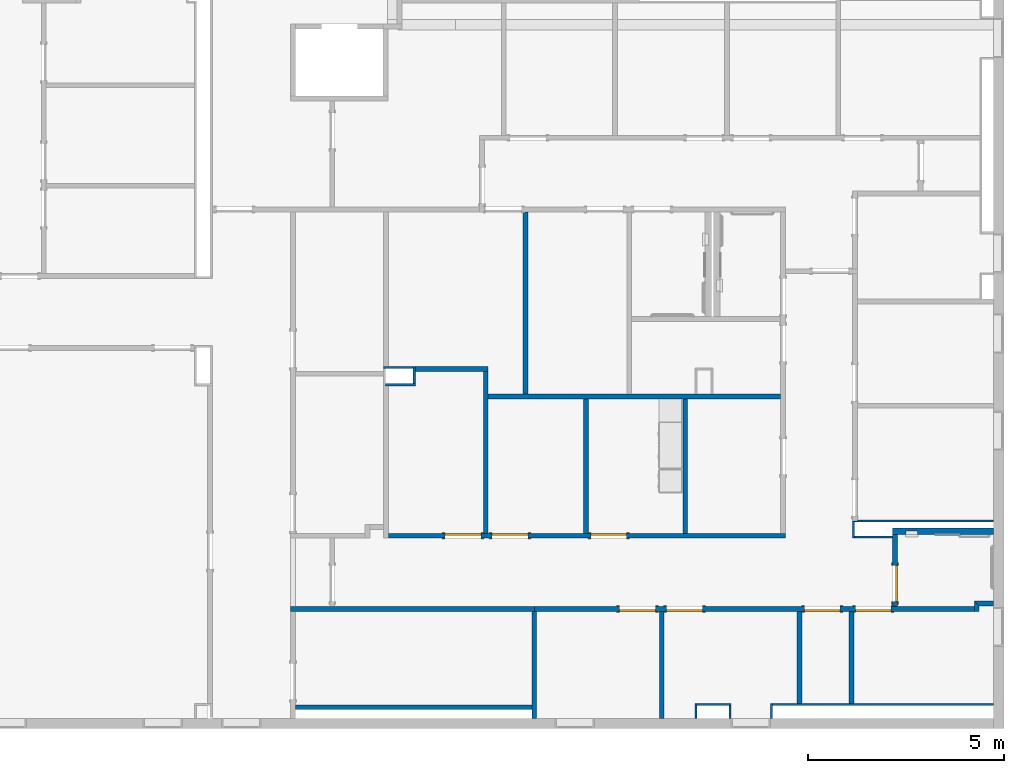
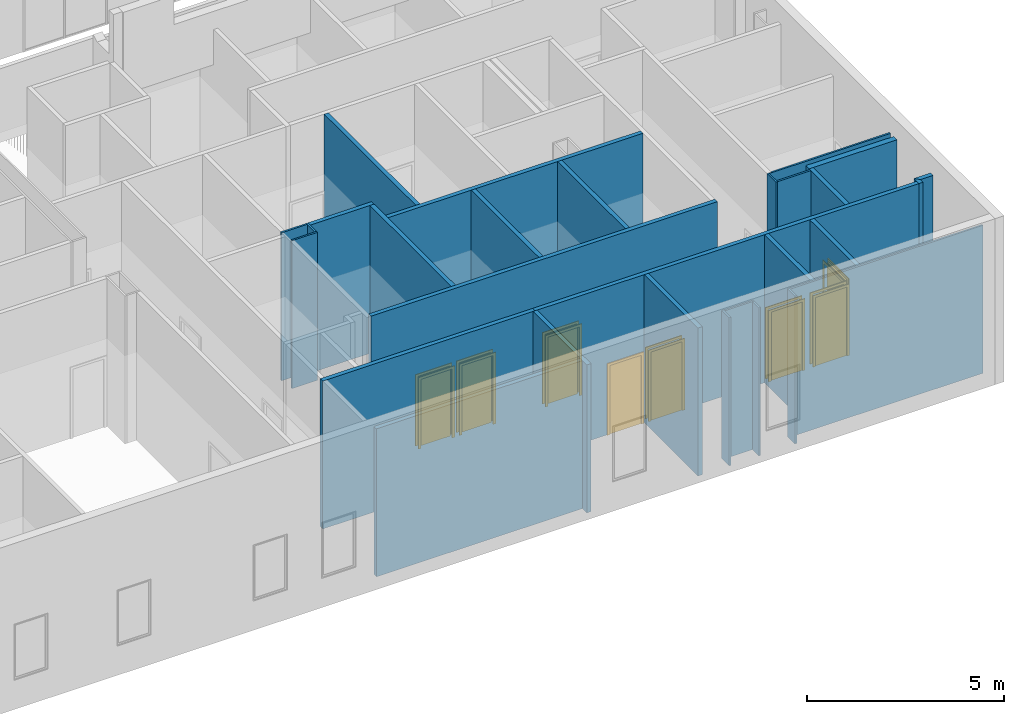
# One storey, part 15 of 47: 29 walls, 8 doors, 9 openings.
"""IFC2X3 building model written with IfcOpenShell, lengths in metres."""

from ifc_helpers import new_model, entity, si_unit, converted_unit, frame, frame_2d, origin, origin_2d_with_axis, place, context, project, spatial, polyline, rectangle, outline, extrude, source, transform, mapped, material, layer, layer_set, layer_usage, type_object, type_shapes, element, fill, save


model = new_model("IFC2X3")

# Units and contexts
model_context = context("Model", 3, precision=1e-09, world=origin())
plan_context = context("Plan", 3, precision=1e-09, world=origin())
ifc_project = project(units=[si_unit("LENGTHUNIT", "METRE"), si_unit("AREAUNIT", "SQUARE_METRE"), si_unit("VOLUMEUNIT", "CUBIC_METRE"), converted_unit("PLANEANGLEUNIT", "DEGREE", entity("IfcRatioMeasure", 0.01745329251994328), si_unit("PLANEANGLEUNIT", "RADIAN"), dimensions=[0, 0, 0, 0, 0, 0, 0]), si_unit("TIMEUNIT", "SECOND")], contexts=[model_context, plan_context])

# Site, building, storey
site_placement = place(None, origin())
site = spatial("IfcSite", under=ifc_project, at=site_placement, Name="Default", CompositionType="ELEMENT")
building_placement = place(site_placement, origin())
building = spatial("IfcBuilding", under=site, at=building_placement, CompositionType="ELEMENT")
storey_placement = place(building_placement, frame((0.0, 0.0, 4.570000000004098)))
storey = spatial("IfcBuildingStorey", under=building, at=storey_placement, Name="Second Floor", CompositionType="ELEMENT", Elevation=4.570000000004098)

# Wall
ifc_material_1 = material(Name="Metal - Stud Layer")
ifc_layer_1 = layer(ifc_material_1, 0.038)
ifc_material_2 = material(Name="Plasterboard")
ifc_layer_2 = layer(ifc_material_2, 0.016)
ifc_layer_set_1 = layer_set([ifc_layer_1, ifc_layer_2], Name="Basic Wall:Interior - Furring (38 mm Stud)")
ifc_layer_usage_1 = layer_usage(ifc_layer_set_1, "AXIS2", "NEGATIVE", 0.027)
wall_1_placement = place(storey_placement, frame((0.1129999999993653, 14.96743871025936, 0.0), z_axis=(0.0, 0.0, 1.0), x_axis=(-1.0, 0.0, 0.0)))
element("IfcWallStandardCase", 1, at=wall_1_placement, inside=storey, material=ifc_layer_usage_1, Name="Basic Wall:Interior - Furring (38 mm Stud)", ObjectType="Basic Wall:Interior - Furring (38 mm Stud)", context=model_context, shape_type="SweptSolid", body=[
    extrude(outline(polyline([(3.478999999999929, -0.02700000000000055), (3.47899999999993, 0.0), (3.548999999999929, 0.0), (3.548999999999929, 0.02700000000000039), (0.0, 0.02700000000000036), (0.0, -0.02700000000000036), (3.478999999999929, -0.02700000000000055)])), origin(), (0.0, 0.0, 1.0), 4.577999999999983),
])

# Wall, opening
ifc_layer_3 = layer(ifc_material_1, 0.152)
ifc_layer_4 = layer(ifc_material_2, 0.016)
ifc_layer_set_2 = layer_set([ifc_layer_3, ifc_layer_4], Name="Basic Wall:Interior - Furring (152 mm Stud)")
ifc_layer_usage_2 = layer_usage(ifc_layer_set_2, "AXIS2", "POSITIVE", -0.08399999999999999)
wall_2_placement = place(storey_placement, frame((0.112999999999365, 14.69843871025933, 0.0), z_axis=(0.0, 0.0, 1.0), x_axis=(-1.0, 0.0, 0.0)))
wall_2 = element("IfcWallStandardCase", 2, at=wall_2_placement, inside=storey, material=ifc_layer_usage_2, Name="Basic Wall:Interior - Furring (152 mm Stud)", ObjectType="Basic Wall:Interior - Furring (152 mm Stud)", context=model_context, shape_type="SweptSolid", body=[
    extrude(rectangle(XDim=2.576999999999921, YDim=0.1680000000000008, at=frame_2d((1.28849999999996, 0.0), x_axis=(-1.0, 0.0))), origin(), (0.0, 0.0, 1.0), 4.577999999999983),
])
opening_1_placement = place(wall_2_placement, origin())
element("IfcOpeningElement", 3, at=opening_1_placement, cuts=wall_2, ObjectType="Opening", context=model_context, shape_type="SweptSolid", body=[
    extrude(rectangle(XDim=1.362075, YDim=0.2984500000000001, at=frame_2d((0.0, 0.0), x_axis=(0.0, 1.0))), frame((2.087899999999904, -0.004900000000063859, 1.041399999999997), z_axis=(0.0, 1.0, 0.0), x_axis=(1.0, 0.0, 0.0)), (0.0, 0.0, 1.0), 0.1524000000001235),
])

# Wall, opening, door
ifc_layer_5 = layer(ifc_material_2, 0.016)
ifc_layer_6 = layer(ifc_material_1, 0.092)
ifc_layer_7 = layer(ifc_material_2, 0.016)
ifc_layer_set_3 = layer_set([ifc_layer_5, ifc_layer_6, ifc_layer_7], Name="Basic Wall:Interior - Partition (92mm Stud)")
ifc_layer_usage_3 = layer_usage(ifc_layer_set_3, "AXIS2", "NEGATIVE", 0.062)
wall_3_placement = place(storey_placement, frame((-2.402000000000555, 14.61443871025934, 0.0), z_axis=(0.0, 0.0, 1.0), x_axis=(0.0, -1.0, 0.0)))
wall_3 = element("IfcWallStandardCase", 4, at=wall_3_placement, inside=storey, material=ifc_layer_usage_3, Name="Basic Wall:Interior - Partition (92mm Stud)", ObjectType="Basic Wall:Interior - Partition (92mm Stud)", context=model_context, shape_type="SweptSolid", body=[
    extrude(rectangle(XDim=1.834438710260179, YDim=0.124, at=frame_2d((0.9172193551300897, 0.0), x_axis=(-1.0, 0.0))), origin(), (0.0, 0.0, 1.0), 4.577999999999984),
])
opening_2_placement = place(wall_3_placement, frame((0.7909999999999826, -0.06200000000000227, 0.0)))
opening_2 = element("IfcOpeningElement", 5, at=opening_2_placement, cuts=wall_3, Name="M_Single-Flush:0915 x 2134mm:0915 x 2134mm:1", ObjectType="Opening", context=model_context, shape_type="SweptSolid", body=[
    extrude(rectangle(XDim=0.9149999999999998, YDim=2.134, at=frame_2d((1.067, 0.4575), x_axis=(0.0, 1.0))), frame((0.0, 0.0, 0.0), z_axis=(0.0, 1.0, 0.0), x_axis=(0.0, 0.0, 1.0)), (0.0, 0.0, 1.0), 0.124),
])
door_style_1 = type_object("IfcDoorStyle", Name="0915 x 2134mm", ConstructionType="NOTDEFINED", OperationType="SINGLE_SWING_RIGHT", ParameterTakesPrecedence=False, Sizeable=False)
shared_shape_1 = source(origin(), model_context, "Body", "SweptSolid", [
    extrude(outline(polyline([(-0.5335, -1.123999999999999), (0.5334999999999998, -1.123999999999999), (0.5334999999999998, 1.086), (0.4574999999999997, 1.086), (0.4574999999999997, -1.048000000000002), (-0.4574999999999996, -1.048000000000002), (-0.4574999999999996, 1.086), (-0.5335, 1.086), (-0.5335, -1.123999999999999)])), frame((0.4575000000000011, 0.1239999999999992, 1.086), z_axis=(0.0, 1.0, 0.0), x_axis=(1.0, 0.0, 0.0)), (0.0, 0.0, 1.0), 0.02499999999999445),
    extrude(outline(polyline([(-1.123999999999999, -0.5334999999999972), (1.085999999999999, -0.5334999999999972), (1.085999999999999, -0.4575000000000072), (-1.048, -0.4575000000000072), (-1.048, 0.4575000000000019), (1.085999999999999, 0.4575000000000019), (1.085999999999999, 0.5335000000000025), (-1.123999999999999, 0.5335000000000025), (-1.123999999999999, -0.5334999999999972)])), frame((0.4575000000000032, -0.02500000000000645, 1.085999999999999), z_axis=(0.0, 1.0, 0.0), x_axis=(0.0, 0.0, -1.0)), (0.0, 0.0, 1.0), 0.02500000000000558),
    extrude(rectangle(XDim=0.051, YDim=0.9149999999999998, at=origin_2d_with_axis()), frame((0.4575000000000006, 0.09849999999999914, 0.0), z_axis=(0.0, 0.0, 1.0), x_axis=(0.0, 1.0, 0.0)), (0.0, 0.0, 1.0), 2.133999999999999),
])
type_shapes(door_style_1, [shared_shape_1])
door_1_placement = place(opening_2_placement, origin())
door_1 = element("IfcDoor", 6, at=door_1_placement, inside=storey, type_object=door_style_1, Name="M_Single-Flush:0915 x 2134mm:0915 x 2134mm", ObjectType="0915 x 2134mm", OverallHeight=2.134, OverallWidth=0.9149999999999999, context=model_context, shape_type="MappedRepresentation", body=[
    mapped(shared_shape_1, transform((0.0, 0.0, 0.0), scale=1.0)),
])
fill(opening_2, door_1)

# Walls
ifc_layer_usage_4 = layer_usage(ifc_layer_set_1, "AXIS2", "POSITIVE", -0.027)
wall_4_placement = place(storey_placement, frame((-2.464000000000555, 14.55143871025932, 0.0), z_axis=(0.0, 0.0, 1.0), x_axis=(-1.0, 0.0, 0.0)))
element("IfcWallStandardCase", 7, at=wall_4_placement, inside=storey, material=ifc_layer_usage_4, Name="Basic Wall:Interior - Furring (38 mm Stud)", ObjectType="Basic Wall:Interior - Furring (38 mm Stud)", context=model_context, shape_type="SweptSolid", body=[
    extrude(rectangle(XDim=0.9720000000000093, YDim=0.05400000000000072, at=frame_2d((0.4860000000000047, 0.0), x_axis=(-1.0, 0.0))), origin(), (0.0, 0.0, 1.0), 4.577999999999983),
])
ifc_layer_usage_5 = layer_usage(ifc_layer_set_3, "AXIS2", "NEGATIVE", 0.062)
wall_5_placement = place(storey_placement, frame((0.1129999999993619, 12.85643871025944, 0.0), z_axis=(0.0, 0.0, 1.0), x_axis=(-1.0, 0.0, 0.0)))
element("IfcWallStandardCase", 8, at=wall_5_placement, inside=storey, material=ifc_layer_usage_5, Name="Basic Wall:Interior - Partition (92mm Stud)", ObjectType="Basic Wall:Interior - Partition (92mm Stud)", context=model_context, shape_type="SweptSolid", body=[
    extrude(outline(polyline([(0.4919999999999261, -0.06199999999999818), (0.3679999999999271, 0.06200000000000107), (0.0, 0.06200000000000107), (0.0, -0.0619999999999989), (0.4919999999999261, -0.06199999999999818)])), origin(), (0.0, 0.0, 1.0), 4.577999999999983),
])
ifc_layer_usage_6 = layer_usage(ifc_layer_set_3, "AXIS2", "NEGATIVE", 0.062)
wall_6_placement = place(storey_placement, frame((-0.3170000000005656, 12.91843871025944, 0.0), z_axis=(0.0, 0.0, 1.0), x_axis=(0.0, -1.0, 0.0)))
element("IfcWallStandardCase", 9, at=wall_6_placement, inside=storey, material=ifc_layer_usage_6, Name="Basic Wall:Interior - Partition (92mm Stud)", ObjectType="Basic Wall:Interior - Partition (92mm Stud)", context=model_context, shape_type="SweptSolid", body=[
    extrude(outline(polyline([(0.2624387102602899, -0.06200000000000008), (0.2624387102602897, 0.06199999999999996), (0.1240000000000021, 0.06199999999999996), (0.0, -0.06200000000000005), (0.1384387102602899, -0.06200000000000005), (0.2624387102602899, -0.06200000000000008)])), origin(), (0.0, 0.0, 1.0), 4.577999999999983),
])

# Wall, openings, doors
ifc_layer_usage_7 = layer_usage(ifc_layer_set_3, "AXIS2", "NEGATIVE", 0.062)
wall_7_placement = place(storey_placement, frame((-0.3790000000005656, 12.71799999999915, 0.0), z_axis=(0.0, 0.0, 1.0), x_axis=(-1.0, 0.0, 0.0)))
wall_7 = element("IfcWallStandardCase", 10, at=wall_7_placement, inside=storey, material=ifc_layer_usage_7, Name="Basic Wall:Interior - Partition (92mm Stud)", ObjectType="Basic Wall:Interior - Partition (92mm Stud)", context=model_context, shape_type="SweptSolid", body=[
    extrude(rectangle(XDim=11.23299985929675, YDim=0.1240000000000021, at=frame_2d((5.616499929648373, 0.0), x_axis=(-1.0, 0.0))), origin(), (0.0, 0.0, 1.0), 4.577999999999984),
])
opening_3_placement = place(wall_7_placement, frame((2.120499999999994, -0.06200000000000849, 0.0)))
opening_3 = element("IfcOpeningElement", 11, at=opening_3_placement, cuts=wall_7, Name="M_Single-Flush:0915 x 2134mm:0915 x 2134mm:1", ObjectType="Opening", context=model_context, shape_type="SweptSolid", body=[
    extrude(rectangle(XDim=0.9149999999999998, YDim=2.134, at=frame_2d((1.067, 0.4574999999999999), x_axis=(0.0, 1.0))), frame((0.0, 0.0, 0.0), z_axis=(0.0, 1.0, 0.0), x_axis=(0.0, 0.0, 1.0)), (0.0, 0.0, 1.0), 0.124),
])
opening_4_placement = place(wall_7_placement, frame((3.421999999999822, -0.06200000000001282, 0.0)))
opening_4 = element("IfcOpeningElement", 12, at=opening_4_placement, cuts=wall_7, Name="M_Single-Flush:0915 x 2134mm:0915 x 2134mm:1", ObjectType="Opening", context=model_context, shape_type="SweptSolid", body=[
    extrude(rectangle(XDim=0.9149999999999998, YDim=2.134, at=frame_2d((1.067, 0.4575), x_axis=(0.0, 1.0))), frame((0.0, 0.0, 0.0), z_axis=(0.0, 1.0, 0.0), x_axis=(0.0, 0.0, 1.0)), (0.0, 0.0, 1.0), 0.124),
])
opening_5_placement = place(wall_7_placement, frame((8.14099999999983, -0.06200000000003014, 0.0)))
opening_5 = element("IfcOpeningElement", 13, at=opening_5_placement, cuts=wall_7, Name="M_Single-Flush:0915 x 2134mm:0915 x 2134mm:1", ObjectType="Opening", context=model_context, shape_type="SweptSolid", body=[
    extrude(rectangle(XDim=0.9150000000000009, YDim=2.134, at=frame_2d((1.067, 0.4574999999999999), x_axis=(0.0, -1.0))), frame((0.0, 0.0, 0.0), z_axis=(0.0, 1.0, 0.0), x_axis=(0.0, 0.0, 1.0)), (0.0, 0.0, 1.0), 0.124),
])
opening_6_placement = place(wall_7_placement, frame((6.941999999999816, -0.06200000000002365, 0.0)))
opening_6 = element("IfcOpeningElement", 14, at=opening_6_placement, cuts=wall_7, Name="M_Single-Flush:0915 x 2134mm:0915 x 2134mm:1", ObjectType="Opening", context=model_context, shape_type="SweptSolid", body=[
    extrude(rectangle(XDim=0.9149999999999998, YDim=2.134, at=frame_2d((1.067, 0.4575), x_axis=(0.0, 1.0))), frame((0.0, 0.0, 0.0), z_axis=(0.0, 1.0, 0.0), x_axis=(0.0, 0.0, 1.0)), (0.0, 0.0, 1.0), 0.124),
])
door_2_placement = place(opening_3_placement, origin())
door_2 = element("IfcDoor", 15, at=door_2_placement, inside=storey, type_object=door_style_1, Name="M_Single-Flush:0915 x 2134mm:0915 x 2134mm", ObjectType="0915 x 2134mm", OverallHeight=2.134, OverallWidth=0.9149999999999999, context=model_context, shape_type="MappedRepresentation", body=[
    mapped(shared_shape_1, transform((0.0, 0.0, 0.0), scale=1.0)),
])
fill(opening_3, door_2)
door_3_placement = place(opening_4_placement, origin())
door_3 = element("IfcDoor", 16, at=door_3_placement, inside=storey, type_object=door_style_1, Name="M_Single-Flush:0915 x 2134mm:0915 x 2134mm", ObjectType="0915 x 2134mm", OverallHeight=2.134, OverallWidth=0.9149999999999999, context=model_context, shape_type="MappedRepresentation", body=[
    mapped(shared_shape_1, transform((0.0, 0.0, 0.0), scale=1.0)),
])
fill(opening_4, door_3)
door_4_placement = place(opening_6_placement, origin())
door_4 = element("IfcDoor", 17, at=door_4_placement, inside=storey, type_object=door_style_1, Name="M_Single-Flush:0915 x 2134mm:0915 x 2134mm", ObjectType="0915 x 2134mm", OverallHeight=2.134, OverallWidth=0.9149999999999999, context=model_context, shape_type="MappedRepresentation", body=[
    mapped(shared_shape_1, transform((0.0, 0.0, 0.0), scale=1.0)),
])
fill(opening_6, door_4)
door_style_2 = type_object("IfcDoorStyle", Name="0915 x 2134mm", ConstructionType="NOTDEFINED", OperationType="SINGLE_SWING_LEFT", ParameterTakesPrecedence=False, Sizeable=False)
shared_shape_2 = source(origin(), model_context, "Body", "SweptSolid", [
    extrude(outline(polyline([(-0.5335, -1.123999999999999), (0.5334999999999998, -1.123999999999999), (0.5334999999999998, 1.086), (0.4574999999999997, 1.086), (0.4574999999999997, -1.048000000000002), (-0.4574999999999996, -1.048000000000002), (-0.4574999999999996, 1.086), (-0.5335, 1.086), (-0.5335, -1.123999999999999)])), frame((0.4575000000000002, 0.1489999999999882, 1.086), z_axis=(0.0, -1.0, 0.0), x_axis=(-1.0, 0.0, 0.0)), (0.0, 0.0, 1.0), 0.02499999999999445),
    extrude(outline(polyline([(-1.123999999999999, -0.5334999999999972), (1.085999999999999, -0.5334999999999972), (1.085999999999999, -0.4575000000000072), (-1.048, -0.4575000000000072), (-1.048, 0.4575000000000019), (1.085999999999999, 0.4575000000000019), (1.085999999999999, 0.5335000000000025), (-1.123999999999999, 0.5335000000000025), (-1.123999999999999, -0.5334999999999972)])), frame((0.4574999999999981, 0.0, 1.085999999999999), z_axis=(0.0, -1.0, 0.0), x_axis=(0.0, 0.0, -1.0)), (0.0, 0.0, 1.0), 0.02500000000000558),
    extrude(rectangle(XDim=0.9149999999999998, YDim=0.051, at=origin_2d_with_axis()), frame((0.4575000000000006, 0.09849999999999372, 0.0)), (0.0, 0.0, 1.0), 2.133999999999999),
])
type_shapes(door_style_2, [shared_shape_2])
door_5_placement = place(opening_5_placement, origin())
door_5 = element("IfcDoor", 18, at=door_5_placement, inside=storey, type_object=door_style_2, Name="M_Single-Flush:0915 x 2134mm:0915 x 2134mm", ObjectType="0915 x 2134mm", OverallHeight=2.134, OverallWidth=0.9149999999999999, context=model_context, shape_type="MappedRepresentation", body=[
    mapped(shared_shape_2, transform((0.0, 0.0, 0.0), scale=1.0)),
])
fill(opening_5, door_5)

# Walls
ifc_layer_usage_8 = layer_usage(ifc_layer_set_3, "AXIS2", "NEGATIVE", 0.062)
wall_8_placement = place(storey_placement, frame((-3.512000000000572, 12.65599999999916, 0.0), z_axis=(0.0, 0.0, 1.0), x_axis=(0.0, -1.0, 0.0)))
element("IfcWallStandardCase", 19, at=wall_8_placement, inside=storey, material=ifc_layer_usage_8, Name="Basic Wall:Interior - Partition (92mm Stud)", ObjectType="Basic Wall:Interior - Partition (92mm Stud)", context=model_context, shape_type="SweptSolid", body=[
    extrude(rectangle(XDim=2.351561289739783, YDim=0.124, at=frame_2d((1.175780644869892, 0.0), x_axis=(-1.0, 0.0))), origin(), (0.0, 0.0, 1.0), 4.577999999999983),
])
ifc_layer_usage_9 = layer_usage(ifc_layer_set_1, "AXIS2", "POSITIVE", -0.027)
wall_9_placement = place(storey_placement, frame((-5.558003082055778, 9.926999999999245, 0.0), z_axis=(0.0, 0.0, 1.0), x_axis=(0.0, 1.0, 0.0)))
element("IfcWallStandardCase", 20, at=wall_9_placement, inside=storey, material=ifc_layer_usage_9, Name="Basic Wall:Interior - Furring (38 mm Stud)", ObjectType="Basic Wall:Interior - Furring (38 mm Stud)", context=model_context, shape_type="SweptSolid", body=[
    extrude(rectangle(XDim=0.3774387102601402, YDim=0.05400000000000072, at=frame_2d((0.1887193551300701, 0.0), x_axis=(-1.0, 0.0))), origin(), (0.0, 0.0, 1.0), 4.577999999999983),
])
ifc_layer_usage_10 = layer_usage(ifc_layer_set_1, "AXIS2", "POSITIVE", -0.027)
wall_10_placement = place(storey_placement, frame((-5.531003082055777, 10.27743871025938, 0.0)))
element("IfcWallStandardCase", 21, at=wall_10_placement, inside=storey, material=ifc_layer_usage_10, Name="Basic Wall:Interior - Furring (38 mm Stud)", ObjectType="Basic Wall:Interior - Furring (38 mm Stud)", context=model_context, shape_type="SweptSolid", body=[
    extrude(rectangle(XDim=5.644003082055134, YDim=0.05400000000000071, at=frame_2d((2.822001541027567, 0.0), x_axis=(-1.0, 0.0))), origin(), (0.0, 0.0, 1.0), 4.577999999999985),
])
ifc_layer_usage_11 = layer_usage(ifc_layer_set_3, "AXIS2", "NEGATIVE", 0.062)
wall_11_placement = place(storey_placement, frame((-4.838000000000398, 10.30443871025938, 0.0), z_axis=(0.0, 0.0, 1.0), x_axis=(0.0, 1.0, 0.0)))
element("IfcWallStandardCase", 22, at=wall_11_placement, inside=storey, material=ifc_layer_usage_11, Name="Basic Wall:Interior - Partition (92mm Stud)", ObjectType="Basic Wall:Interior - Partition (92mm Stud)", context=model_context, shape_type="SweptSolid", body=[
    extrude(rectangle(XDim=2.351561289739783, YDim=0.124, at=frame_2d((1.175780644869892, 0.0), x_axis=(-1.0, 0.0))), origin(), (0.0, 0.0, 1.0), 4.577999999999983),
])
ifc_layer_usage_12 = layer_usage(ifc_layer_set_1, "AXIS2", "POSITIVE", -0.027)
wall_12_placement = place(storey_placement, frame((-7.483000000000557, 9.92699999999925, 0.0), z_axis=(0.0, 0.0, 1.0), x_axis=(0.0, 1.0, 0.0)))
element("IfcWallStandardCase", 23, at=wall_12_placement, inside=storey, material=ifc_layer_usage_12, Name="Basic Wall:Interior - Furring (38 mm Stud)", ObjectType="Basic Wall:Interior - Furring (38 mm Stud)", context=model_context, shape_type="SweptSolid", body=[
    extrude(rectangle(XDim=0.3774387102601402, YDim=0.05400000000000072, at=frame_2d((0.1887193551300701, 0.0), x_axis=(-1.0, 0.0))), origin(), (0.0, 0.0, 1.0), 4.577999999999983),
])
ifc_layer_usage_13 = layer_usage(ifc_layer_set_1, "AXIS2", "POSITIVE", -0.027)
wall_13_placement = place(storey_placement, frame((-7.456000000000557, 10.27743871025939, 0.0)))
element("IfcWallStandardCase", 24, at=wall_13_placement, inside=storey, material=ifc_layer_usage_13, Name="Basic Wall:Interior - Furring (38 mm Stud)", ObjectType="Basic Wall:Interior - Furring (38 mm Stud)", context=model_context, shape_type="SweptSolid", body=[
    extrude(rectangle(XDim=0.8709969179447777, YDim=0.05400000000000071, at=frame_2d((0.4354984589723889, 0.0), x_axis=(-1.0, 0.0))), origin(), (0.0, 0.0, 1.0), 4.577999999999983),
])
ifc_layer_usage_14 = layer_usage(ifc_layer_set_1, "AXIS2", "POSITIVE", -0.027)
wall_14_placement = place(storey_placement, frame((-6.612003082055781, 10.25043871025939, 0.0), z_axis=(0.0, 0.0, 1.0), x_axis=(0.0, -1.0, 0.0)))
element("IfcWallStandardCase", 25, at=wall_14_placement, inside=storey, material=ifc_layer_usage_14, Name="Basic Wall:Interior - Furring (38 mm Stud)", ObjectType="Basic Wall:Interior - Furring (38 mm Stud)", context=model_context, shape_type="SweptSolid", body=[
    extrude(rectangle(XDim=0.3234387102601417, YDim=0.05400000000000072, at=frame_2d((0.1617193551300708, 0.0), x_axis=(-1.0, 0.0))), origin(), (0.0, 0.0, 1.0), 4.577999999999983),
])
ifc_layer_usage_15 = layer_usage(ifc_layer_set_3, "AXIS2", "NEGATIVE", 0.062)
wall_15_placement = place(storey_placement, frame((-8.358000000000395, 9.926999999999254, 0.0), z_axis=(0.0, 0.0, 1.0), x_axis=(0.0, 1.0, 0.0)))
element("IfcWallStandardCase", 26, at=wall_15_placement, inside=storey, material=ifc_layer_usage_15, Name="Basic Wall:Interior - Partition (92mm Stud)", ObjectType="Basic Wall:Interior - Partition (92mm Stud)", context=model_context, shape_type="SweptSolid", body=[
    extrude(rectangle(XDim=2.728999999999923, YDim=0.124, at=frame_2d((1.364499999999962, 0.0), x_axis=(-1.0, 0.0))), origin(), (0.0, 0.0, 1.0), 4.577999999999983),
])
ifc_material_3 = material(Name="Type-X Plasterboard")
ifc_layer_8 = layer(ifc_material_3, 0.016)
ifc_layer_9 = layer(ifc_material_1, 0.092)
ifc_layer_10 = layer(ifc_material_3, 0.016)
ifc_layer_set_4 = layer_set([ifc_layer_8, ifc_layer_9, ifc_layer_10], Name="Basic Wall:Interior - Rated 1-HR (92mm Stud)")
ifc_layer_usage_16 = layer_usage(ifc_layer_set_4, "AXIS2", "NEGATIVE", 0.06200000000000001)
wall_16_placement = place(storey_placement, frame((-11.61199985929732, 9.926999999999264, 0.0), z_axis=(0.0, 0.0, 1.0), x_axis=(0.0, 1.0, 0.0)))
element("IfcWallStandardCase", 27, at=wall_16_placement, inside=storey, material=ifc_layer_usage_16, Name="Basic Wall:Interior - Rated 1-HR (92mm Stud)", ObjectType="Basic Wall:Interior - Rated 1-HR (92mm Stud)", context=model_context, shape_type="SweptSolid", body=[
    extrude(rectangle(XDim=2.728999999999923, YDim=0.1240000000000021, at=frame_2d((1.364499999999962, 0.0), x_axis=(-1.0, 0.0))), origin(), (0.0, 0.0, 1.0), 4.577999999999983),
])

# Wall, openings, doors
ifc_layer_usage_17 = layer_usage(ifc_layer_set_3, "AXIS2", "NEGATIVE", 0.062)
wall_17_placement = place(storey_placement, frame((-5.200000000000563, 14.58643871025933, 0.0), z_axis=(0.0, 0.0, 1.0), x_axis=(-1.0, 0.0, 0.0)))
wall_17 = element("IfcWallStandardCase", 28, at=wall_17_placement, inside=storey, material=ifc_layer_usage_17, Name="Basic Wall:Interior - Partition (92mm Stud)", ObjectType="Basic Wall:Interior - Partition (92mm Stud)", context=model_context, shape_type="SweptSolid", body=[
    extrude(rectangle(XDim=10.13599999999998, YDim=0.1240000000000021, at=frame_2d((5.067999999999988, 0.0), x_axis=(-1.0, 0.0))), origin(), (0.0, 0.0, 1.0), 4.577999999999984),
])
opening_7_placement = place(wall_17_placement, frame((4.965999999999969, 0.06199999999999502, 0.0)))
opening_7 = element("IfcOpeningElement", 29, at=opening_7_placement, cuts=wall_17, Name="M_Single-Flush:0915 x 2134mm:0915 x 2134mm:1", ObjectType="Opening", context=model_context, shape_type="SweptSolid", body=[
    extrude(rectangle(XDim=0.9149999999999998, YDim=2.134, at=frame_2d((1.067, 0.4574999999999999), x_axis=(0.0, -1.0))), frame((0.0, 0.0, 0.0), z_axis=(0.0, -1.0, 0.0), x_axis=(0.0, 0.0, 1.0)), (0.0, 0.0, 1.0), 0.124),
])
opening_8_placement = place(wall_17_placement, frame((7.489999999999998, 0.06199999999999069, 0.0)))
opening_8 = element("IfcOpeningElement", 30, at=opening_8_placement, cuts=wall_17, Name="M_Single-Flush:0915 x 2134mm:0915 x 2134mm:1", ObjectType="Opening", context=model_context, shape_type="SweptSolid", body=[
    extrude(rectangle(XDim=0.9149999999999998, YDim=2.134, at=frame_2d((1.067, 0.4574999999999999), x_axis=(0.0, -1.0))), frame((0.0, 0.0, 0.0), z_axis=(0.0, -1.0, 0.0), x_axis=(0.0, 0.0, 1.0)), (0.0, 0.0, 1.0), 0.124),
])
opening_9_placement = place(wall_17_placement, frame((8.688999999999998, 0.06199999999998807, 0.0)))
opening_9 = element("IfcOpeningElement", 31, at=opening_9_placement, cuts=wall_17, Name="M_Single-Flush:0915 x 2134mm:0915 x 2134mm:1", ObjectType="Opening", context=model_context, shape_type="SweptSolid", body=[
    extrude(rectangle(XDim=0.9149999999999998, YDim=2.134, at=frame_2d((1.067, 0.4575), x_axis=(0.0, 1.0))), frame((0.0, 0.0, 0.0), z_axis=(0.0, -1.0, 0.0), x_axis=(0.0, 0.0, 1.0)), (0.0, 0.0, 1.0), 0.124),
])
door_6_placement = place(opening_9_placement, frame((0.0, 0.0, 0.0), z_axis=(0.0, 0.0, 1.0), x_axis=(-1.0, 0.0, 0.0)))
door_6 = element("IfcDoor", 32, at=door_6_placement, inside=storey, type_object=door_style_1, Name="M_Single-Flush:0915 x 2134mm:0915 x 2134mm", ObjectType="0915 x 2134mm", OverallHeight=2.134, OverallWidth=0.9149999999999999, context=model_context, shape_type="MappedRepresentation", body=[
    mapped(shared_shape_1, transform((0.0, 0.0, 0.0), scale=1.0)),
])
fill(opening_9, door_6)
door_7_placement = place(opening_7_placement, frame((0.0, 0.0, 0.0), z_axis=(0.0, 0.0, 1.0), x_axis=(-1.0, 0.0, 0.0)))
door_7 = element("IfcDoor", 33, at=door_7_placement, inside=storey, type_object=door_style_2, Name="M_Single-Flush:0915 x 2134mm:0915 x 2134mm", ObjectType="0915 x 2134mm", OverallHeight=2.134, OverallWidth=0.9149999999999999, context=model_context, shape_type="MappedRepresentation", body=[
    mapped(shared_shape_2, transform((0.0, 0.0, 0.0), scale=1.0)),
])
fill(opening_7, door_7)
door_8_placement = place(opening_8_placement, frame((0.0, 0.0, 0.0), z_axis=(0.0, 0.0, 1.0), x_axis=(-1.0, 0.0, 0.0)))
door_8 = element("IfcDoor", 34, at=door_8_placement, inside=storey, type_object=door_style_2, Name="M_Single-Flush:0915 x 2134mm:0915 x 2134mm", ObjectType="0915 x 2134mm", OverallHeight=2.134, OverallWidth=0.9149999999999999, context=model_context, shape_type="MappedRepresentation", body=[
    mapped(shared_shape_2, transform((0.0, 0.0, 0.0), scale=1.0)),
])
fill(opening_8, door_8)

# Walls
ifc_layer_usage_18 = layer_usage(ifc_layer_set_3, "AXIS2", "NEGATIVE", 0.062)
wall_18_placement = place(storey_placement, frame((-17.70600000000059, 10.20799983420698, 0.0)))
element("IfcWallStandardCase", 35, at=wall_18_placement, inside=storey, material=ifc_layer_usage_18, Name="Basic Wall:Interior - Partition (92mm Stud)", ObjectType="Basic Wall:Interior - Partition (92mm Stud)", context=model_context, shape_type="SweptSolid", body=[
    extrude(rectangle(XDim=6.03200014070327, YDim=0.1240000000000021, at=frame_2d((3.016000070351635, 0.0), x_axis=(-1.0, 0.0))), origin(), (0.0, 0.0, 1.0), 4.577999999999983),
])
ifc_layer_usage_19 = layer_usage(ifc_layer_set_3, "AXIS2", "NEGATIVE", 0.062)
wall_19_placement = place(storey_placement, frame((-14.64997500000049, 18.84243871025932, 0.0)))
element("IfcWallStandardCase", 36, at=wall_19_placement, inside=storey, material=ifc_layer_usage_19, Name="Basic Wall:Interior - Partition (92mm Stud)", ObjectType="Basic Wall:Interior - Partition (92mm Stud)", context=model_context, shape_type="SweptSolid", body=[
    extrude(rectangle(XDim=1.85997499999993, YDim=0.1240000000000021, at=frame_2d((0.9299874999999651, 0.0), x_axis=(-1.0, 0.0))), origin(), (0.0, 0.0, 1.0), 4.577999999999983),
])
ifc_layer_usage_20 = layer_usage(ifc_layer_set_3, "AXIS2", "NEGATIVE", 0.062)
wall_20_placement = place(storey_placement, frame((-12.85200000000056, 18.78043871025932, 0.0), z_axis=(0.0, 0.0, 1.0), x_axis=(0.0, -1.0, 0.0)))
element("IfcWallStandardCase", 37, at=wall_20_placement, inside=storey, material=ifc_layer_usage_20, Name="Basic Wall:Interior - Partition (92mm Stud)", ObjectType="Basic Wall:Interior - Partition (92mm Stud)", context=model_context, shape_type="SweptSolid", body=[
    extrude(rectangle(XDim=4.131999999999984, YDim=0.1240000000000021, at=frame_2d((2.065999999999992, 0.0), x_axis=(-1.0, 0.0))), origin(), (0.0, 0.0, 1.0), 4.577999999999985),
])
ifc_layer_usage_21 = layer_usage(ifc_layer_set_3, "AXIS2", "NEGATIVE", 0.062)
wall_21_placement = place(storey_placement, frame((-12.79000000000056, 18.14243871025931, 0.0)))
element("IfcWallStandardCase", 38, at=wall_21_placement, inside=storey, material=ifc_layer_usage_21, Name="Basic Wall:Interior - Partition (92mm Stud)", ObjectType="Basic Wall:Interior - Partition (92mm Stud)", context=model_context, shape_type="SweptSolid", body=[
    extrude(rectangle(XDim=7.465999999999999, YDim=0.1240000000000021, at=frame_2d((3.733, 0.0), x_axis=(-1.0, 0.0))), origin(), (0.0, 0.0, 1.0), 4.577999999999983),
])
ifc_layer_usage_22 = layer_usage(ifc_layer_set_3, "AXIS2", "NEGATIVE", 0.062)
wall_22_placement = place(storey_placement, frame((-11.83800000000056, 18.20443871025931, 0.0), z_axis=(0.0, 0.0, 1.0), x_axis=(0.0, 1.0, 0.0)))
element("IfcWallStandardCase", 39, at=wall_22_placement, inside=storey, material=ifc_layer_usage_22, Name="Basic Wall:Interior - Partition (92mm Stud)", ObjectType="Basic Wall:Interior - Partition (92mm Stud)", context=model_context, shape_type="SweptSolid", body=[
    extrude(rectangle(XDim=4.64600000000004, YDim=0.1240000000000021, at=frame_2d((2.32300000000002, 0.0), x_axis=(-1.0, 0.0))), origin(), (0.0, 0.0, 1.0), 4.577999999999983),
])
ifc_layer_usage_23 = layer_usage(ifc_layer_set_3, "AXIS2", "NEGATIVE", 0.062)
wall_23_placement = place(storey_placement, frame((-10.28800000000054, 14.64843871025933, 0.0), z_axis=(0.0, 0.0, 1.0), x_axis=(0.0, 1.0, 0.0)))
element("IfcWallStandardCase", 40, at=wall_23_placement, inside=storey, material=ifc_layer_usage_23, Name="Basic Wall:Interior - Partition (92mm Stud)", ObjectType="Basic Wall:Interior - Partition (92mm Stud)", context=model_context, shape_type="SweptSolid", body=[
    extrude(rectangle(XDim=3.431999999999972, YDim=0.1240000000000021, at=frame_2d((1.715999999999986, 0.0), x_axis=(-1.0, 0.0))), origin(), (0.0, 0.0, 1.0), 4.577999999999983),
])
ifc_layer_usage_24 = layer_usage(ifc_layer_set_3, "AXIS2", "NEGATIVE", 0.062)
wall_24_placement = place(storey_placement, frame((-7.75800000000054, 14.64843871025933, 0.0), z_axis=(0.0, 0.0, 1.0), x_axis=(0.0, 1.0, 0.0)))
element("IfcWallStandardCase", 41, at=wall_24_placement, inside=storey, material=ifc_layer_usage_24, Name="Basic Wall:Interior - Partition (92mm Stud)", ObjectType="Basic Wall:Interior - Partition (92mm Stud)", context=model_context, shape_type="SweptSolid", body=[
    extrude(rectangle(XDim=3.431999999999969, YDim=0.124, at=frame_2d((1.715999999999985, 0.0), x_axis=(-1.0, 0.0))), origin(), (0.0, 0.0, 1.0), 4.577999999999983),
])
ifc_layer_usage_25 = layer_usage(ifc_layer_set_4, "AXIS2", "NEGATIVE", 0.06200000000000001)
wall_25_placement = place(storey_placement, frame((-11.61199985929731, 12.71799999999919, 0.0), z_axis=(0.0, 0.0, 1.0), x_axis=(-1.0, 0.0, 0.0)))
element("IfcWallStandardCase", 42, at=wall_25_placement, inside=storey, material=ifc_layer_usage_25, Name="Basic Wall:Interior - Rated 1-HR (92mm Stud)", ObjectType="Basic Wall:Interior - Rated 1-HR (92mm Stud)", context=model_context, shape_type="SweptSolid", body=[
    extrude(rectangle(XDim=6.21800014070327, YDim=0.1240000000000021, at=frame_2d((3.109000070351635, 0.0), x_axis=(-1.0, 0.0))), origin(), (0.0, 0.0, 1.0), 4.577999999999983),
])
ifc_layer_usage_26 = layer_usage(ifc_layer_set_1, "AXIS2", "POSITIVE", -0.027)
wall_26_placement = place(storey_placement, frame((-15.46000000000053, 18.87743871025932, 0.0)))
element("IfcWallStandardCase", 43, at=wall_26_placement, inside=storey, material=ifc_layer_usage_26, Name="Basic Wall:Interior - Furring (38 mm Stud)", ObjectType="Basic Wall:Interior - Furring (38 mm Stud)", context=model_context, shape_type="SweptSolid", body=[
    extrude(rectangle(XDim=0.7560250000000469, YDim=0.05400000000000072, at=frame_2d((0.3780125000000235, 0.0), x_axis=(-1.0, 0.0))), origin(), (0.0, 0.0, 1.0), 4.577999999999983),
])
ifc_layer_usage_27 = layer_usage(ifc_layer_set_1, "AXIS2", "POSITIVE", -0.027)
wall_27_placement = place(storey_placement, frame((-14.64997500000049, 18.44143871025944, 0.0), z_axis=(0.0, 0.0, 1.0), x_axis=(-1.0, 0.0, 0.0)))
element("IfcWallStandardCase", 44, at=wall_27_placement, inside=storey, material=ifc_layer_usage_27, Name="Basic Wall:Interior - Furring (38 mm Stud)", ObjectType="Basic Wall:Interior - Furring (38 mm Stud)", context=model_context, shape_type="SweptSolid", body=[
    extrude(rectangle(XDim=0.7560250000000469, YDim=0.05400000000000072, at=frame_2d((0.3780125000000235, 0.0), x_axis=(-1.0, 0.0))), origin(), (0.0, 0.0, 1.0), 4.577999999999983),
])
ifc_layer_usage_28 = layer_usage(ifc_layer_set_1, "AXIS2", "POSITIVE", -0.027)
wall_28_placement = place(storey_placement, frame((-14.67697500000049, 18.90443871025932, 0.0), z_axis=(0.0, 0.0, 1.0), x_axis=(0.0, -1.0, 0.0)))
element("IfcWallStandardCase", 45, at=wall_28_placement, inside=storey, material=ifc_layer_usage_28, Name="Basic Wall:Interior - Furring (38 mm Stud)", ObjectType="Basic Wall:Interior - Furring (38 mm Stud)", context=model_context, shape_type="SweptSolid", body=[
    extrude(rectangle(XDim=0.4359999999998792, YDim=0.05400000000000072, at=frame_2d((0.2179999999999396, 0.0), x_axis=(-1.0, 0.0))), origin(), (0.0, 0.0, 1.0), 4.577999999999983),
])
ifc_layer_usage_29 = layer_usage(ifc_layer_set_1, "AXIS2", "NEGATIVE", 0.027)
wall_29_placement = place(storey_placement, frame((-3.463000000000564, 14.96743871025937, 0.0), z_axis=(0.0, 0.0, 1.0), x_axis=(0.0, -1.0, 0.0)))
element("IfcWallStandardCase", 46, at=wall_29_placement, inside=storey, material=ifc_layer_usage_29, Name="Basic Wall:Interior - Furring (38 mm Stud)", ObjectType="Basic Wall:Interior - Furring (38 mm Stud)", context=model_context, shape_type="SweptSolid", body=[
    extrude(rectangle(XDim=0.4430000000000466, YDim=0.05399999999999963, at=frame_2d((0.2215000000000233, 0.0), x_axis=(-1.0, 0.0))), origin(), (0.0, 0.0, 1.0), 4.577999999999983),
])

save(model, "model.ifc")
